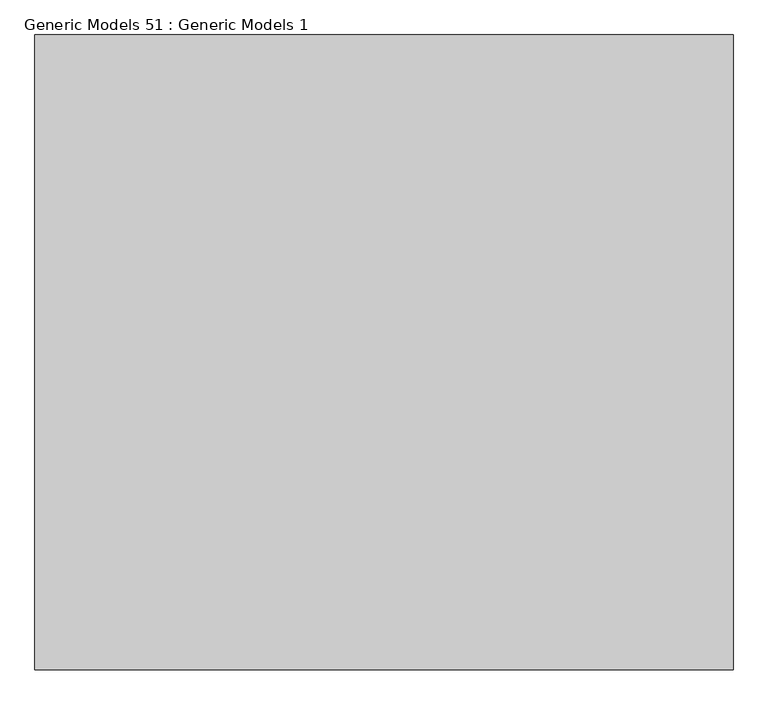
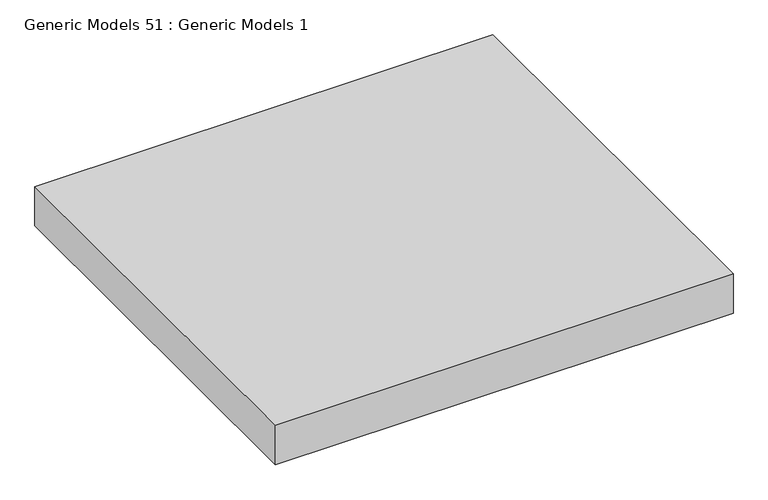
"""IFC4 building model written with IfcOpenShell, lengths in millimetres: proxy geometry, Generic Models 51 : Generic Models 1."""

from ifc_helpers import new_model, si_unit, origin, origin_with_axes, place, context, project, spatial, polyline, outline, extrude, source, transform, mapped, element, save


def generic_models_51_generic_models_1_611fd263(model_context):
    return source(origin(), model_context, "Body", "SweptSolid", [
        extrude(outline(polyline([(95.1731655, -5024.1855869), (95.1731655, -4024.1855869), (1195.1731655, -4024.1855869), (1195.1731655, -5024.1855869), (95.1731655, -5024.1855869)])), origin_with_axes(), (0.0, 0.0, 1.0), 100.0),
    ])


if __name__ == "__main__":
    model = new_model("IFC4")
    model_context = context("Model", 3, world=origin())
    ifc_project = project(units=[si_unit("LENGTHUNIT", "METRE", prefix="MILLI")], contexts=[model_context])
    site = spatial("IfcSite", under=ifc_project)
    building = spatial("IfcBuilding", under=site)
    placement = place(None, origin())
    generic_models_51_generic_models_1_shape = generic_models_51_generic_models_1_611fd263(model_context)
    element("IfcBuildingElementProxy", 1, Name="Generic Models 51 : Generic Models 1", ObjectType="Generic Models 51 : Generic Models 1", at=placement, inside=building, context=model_context, shape_type="MappedRepresentation", body=[
        mapped(generic_models_51_generic_models_1_shape, transform((0.0, 0.0, 0.0), x_axis=(1.0, 0.0, 0.0), y_axis=(0.0, 1.0, 0.0), z_axis=(0.0, 0.0, 1.0))),
    ])
    save(model, "model.ifc")
